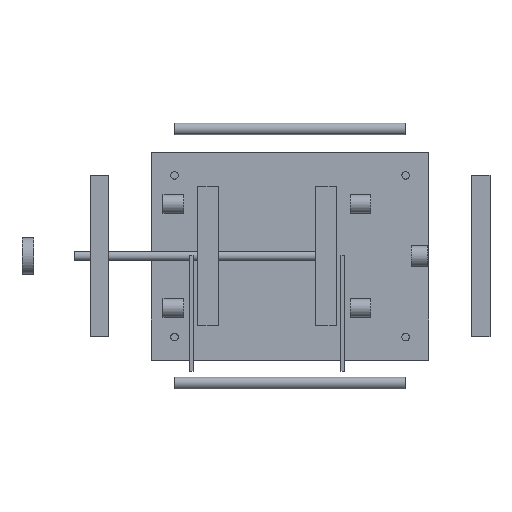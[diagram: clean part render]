
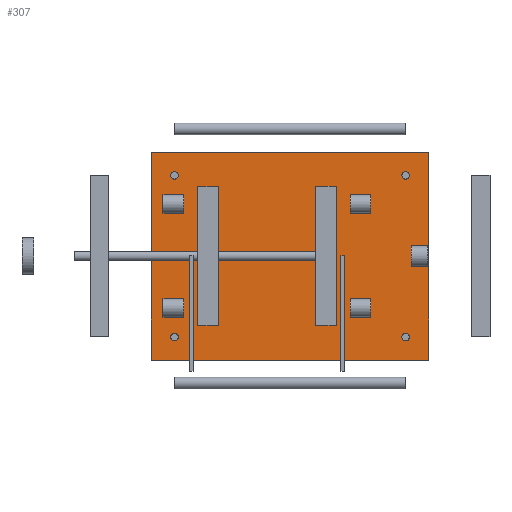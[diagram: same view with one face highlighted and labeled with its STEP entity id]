
A CAD part, top view. The second image highlights one B-rep face of the part: STEP entity #307.
In plain terms, the highlighted planar face has unit normal (0, 0, 1).
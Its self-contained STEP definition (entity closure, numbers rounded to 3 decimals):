
#118 = VERTEX_POINT('',#119);
#119 = CARTESIAN_POINT('',(0.,0.,10.));
#126 = PLANE('',#127);
#127 = AXIS2_PLACEMENT_3D('',#128,#129,#130);
#128 = CARTESIAN_POINT('',(0.,0.,0.));
#129 = DIRECTION('',(1.,0.,-0.));
#130 = DIRECTION('',(0.,0.,1.));
#138 = PLANE('',#139);
#139 = AXIS2_PLACEMENT_3D('',#140,#141,#142);
#140 = CARTESIAN_POINT('',(0.,0.,0.));
#141 = DIRECTION('',(-0.,1.,0.));
#142 = DIRECTION('',(0.,0.,1.));
#179 = VERTEX_POINT('',#180);
#180 = CARTESIAN_POINT('',(0.,180.,10.));
#194 = PLANE('',#195);
#195 = AXIS2_PLACEMENT_3D('',#196,#197,#198);
#196 = CARTESIAN_POINT('',(0.,180.,0.));
#197 = DIRECTION('',(-0.,1.,0.));
#198 = DIRECTION('',(0.,0.,1.));
#206 = EDGE_CURVE('',#118,#179,#207,.T.);
#207 = SURFACE_CURVE('',#208,(#212,#219),.PCURVE_S1.);
#208 = LINE('',#209,#210);
#209 = CARTESIAN_POINT('',(0.,0.,10.));
#210 = VECTOR('',#211,1.);
#211 = DIRECTION('',(-0.,1.,0.));
#212 = PCURVE('',#126,#213);
#213 = DEFINITIONAL_REPRESENTATION('',(#214),#218);
#214 = LINE('',#215,#216);
#215 = CARTESIAN_POINT('',(10.,0.));
#216 = VECTOR('',#217,1.);
#217 = DIRECTION('',(0.,-1.));
#218 = ( GEOMETRIC_REPRESENTATION_CONTEXT(2) 
PARAMETRIC_REPRESENTATION_CONTEXT() REPRESENTATION_CONTEXT('2D SPACE',''
  ) );
#219 = PCURVE('',#220,#225);
#220 = PLANE('',#221);
#221 = AXIS2_PLACEMENT_3D('',#222,#223,#224);
#222 = CARTESIAN_POINT('',(0.,0.,10.));
#223 = DIRECTION('',(0.,0.,1.));
#224 = DIRECTION('',(1.,0.,-0.));
#225 = DEFINITIONAL_REPRESENTATION('',(#226),#230);
#226 = LINE('',#227,#228);
#227 = CARTESIAN_POINT('',(0.,0.));
#228 = VECTOR('',#229,1.);
#229 = DIRECTION('',(0.,1.));
#230 = ( GEOMETRIC_REPRESENTATION_CONTEXT(2) 
PARAMETRIC_REPRESENTATION_CONTEXT() REPRESENTATION_CONTEXT('2D SPACE',''
  ) );
#259 = EDGE_CURVE('',#118,#260,#262,.T.);
#260 = VERTEX_POINT('',#261);
#261 = CARTESIAN_POINT('',(240.,0.,10.));
#262 = SURFACE_CURVE('',#263,(#267,#274),.PCURVE_S1.);
#263 = LINE('',#264,#265);
#264 = CARTESIAN_POINT('',(0.,0.,10.));
#265 = VECTOR('',#266,1.);
#266 = DIRECTION('',(1.,0.,-0.));
#267 = PCURVE('',#138,#268);
#268 = DEFINITIONAL_REPRESENTATION('',(#269),#273);
#269 = LINE('',#270,#271);
#270 = CARTESIAN_POINT('',(10.,0.));
#271 = VECTOR('',#272,1.);
#272 = DIRECTION('',(0.,1.));
#273 = ( GEOMETRIC_REPRESENTATION_CONTEXT(2) 
PARAMETRIC_REPRESENTATION_CONTEXT() REPRESENTATION_CONTEXT('2D SPACE',''
  ) );
#274 = PCURVE('',#220,#275);
#275 = DEFINITIONAL_REPRESENTATION('',(#276),#280);
#276 = LINE('',#277,#278);
#277 = CARTESIAN_POINT('',(0.,0.));
#278 = VECTOR('',#279,1.);
#279 = DIRECTION('',(1.,0.));
#280 = ( GEOMETRIC_REPRESENTATION_CONTEXT(2) 
PARAMETRIC_REPRESENTATION_CONTEXT() REPRESENTATION_CONTEXT('2D SPACE',''
  ) );
#296 = PLANE('',#297);
#297 = AXIS2_PLACEMENT_3D('',#298,#299,#300);
#298 = CARTESIAN_POINT('',(240.,0.,0.));
#299 = DIRECTION('',(1.,0.,-0.));
#300 = DIRECTION('',(0.,0.,1.));
#307 = ADVANCED_FACE('',(#308,#356,#387,#418,#449),#220,.T.);
#308 = FACE_BOUND('',#309,.T.);
#309 = EDGE_LOOP('',(#310,#311,#312,#335));
#310 = ORIENTED_EDGE('',*,*,#206,.F.);
#311 = ORIENTED_EDGE('',*,*,#259,.T.);
#312 = ORIENTED_EDGE('',*,*,#313,.T.);
#313 = EDGE_CURVE('',#260,#314,#316,.T.);
#314 = VERTEX_POINT('',#315);
#315 = CARTESIAN_POINT('',(240.,180.,10.));
#316 = SURFACE_CURVE('',#317,(#321,#328),.PCURVE_S1.);
#317 = LINE('',#318,#319);
#318 = CARTESIAN_POINT('',(240.,0.,10.));
#319 = VECTOR('',#320,1.);
#320 = DIRECTION('',(-0.,1.,0.));
#321 = PCURVE('',#220,#322);
#322 = DEFINITIONAL_REPRESENTATION('',(#323),#327);
#323 = LINE('',#324,#325);
#324 = CARTESIAN_POINT('',(240.,0.));
#325 = VECTOR('',#326,1.);
#326 = DIRECTION('',(0.,1.));
#327 = ( GEOMETRIC_REPRESENTATION_CONTEXT(2) 
PARAMETRIC_REPRESENTATION_CONTEXT() REPRESENTATION_CONTEXT('2D SPACE',''
  ) );
#328 = PCURVE('',#296,#329);
#329 = DEFINITIONAL_REPRESENTATION('',(#330),#334);
#330 = LINE('',#331,#332);
#331 = CARTESIAN_POINT('',(10.,0.));
#332 = VECTOR('',#333,1.);
#333 = DIRECTION('',(0.,-1.));
#334 = ( GEOMETRIC_REPRESENTATION_CONTEXT(2) 
PARAMETRIC_REPRESENTATION_CONTEXT() REPRESENTATION_CONTEXT('2D SPACE',''
  ) );
#335 = ORIENTED_EDGE('',*,*,#336,.F.);
#336 = EDGE_CURVE('',#179,#314,#337,.T.);
#337 = SURFACE_CURVE('',#338,(#342,#349),.PCURVE_S1.);
#338 = LINE('',#339,#340);
#339 = CARTESIAN_POINT('',(0.,180.,10.));
#340 = VECTOR('',#341,1.);
#341 = DIRECTION('',(1.,0.,-0.));
#342 = PCURVE('',#220,#343);
#343 = DEFINITIONAL_REPRESENTATION('',(#344),#348);
#344 = LINE('',#345,#346);
#345 = CARTESIAN_POINT('',(0.,180.));
#346 = VECTOR('',#347,1.);
#347 = DIRECTION('',(1.,0.));
#348 = ( GEOMETRIC_REPRESENTATION_CONTEXT(2) 
PARAMETRIC_REPRESENTATION_CONTEXT() REPRESENTATION_CONTEXT('2D SPACE',''
  ) );
#349 = PCURVE('',#194,#350);
#350 = DEFINITIONAL_REPRESENTATION('',(#351),#355);
#351 = LINE('',#352,#353);
#352 = CARTESIAN_POINT('',(10.,0.));
#353 = VECTOR('',#354,1.);
#354 = DIRECTION('',(0.,1.));
#355 = ( GEOMETRIC_REPRESENTATION_CONTEXT(2) 
PARAMETRIC_REPRESENTATION_CONTEXT() REPRESENTATION_CONTEXT('2D SPACE',''
  ) );
#356 = FACE_BOUND('',#357,.T.);
#357 = EDGE_LOOP('',(#358));
#358 = ORIENTED_EDGE('',*,*,#359,.F.);
#359 = EDGE_CURVE('',#360,#360,#362,.T.);
#360 = VERTEX_POINT('',#361);
#361 = CARTESIAN_POINT('',(23.3,20.,10.));
#362 = SURFACE_CURVE('',#363,(#368,#375),.PCURVE_S1.);
#363 = CIRCLE('',#364,3.3);
#364 = AXIS2_PLACEMENT_3D('',#365,#366,#367);
#365 = CARTESIAN_POINT('',(20.,20.,10.));
#366 = DIRECTION('',(0.,0.,1.));
#367 = DIRECTION('',(1.,0.,-0.));
#368 = PCURVE('',#220,#369);
#369 = DEFINITIONAL_REPRESENTATION('',(#370),#374);
#370 = CIRCLE('',#371,3.3);
#371 = AXIS2_PLACEMENT_2D('',#372,#373);
#372 = CARTESIAN_POINT('',(20.,20.));
#373 = DIRECTION('',(1.,0.));
#374 = ( GEOMETRIC_REPRESENTATION_CONTEXT(2) 
PARAMETRIC_REPRESENTATION_CONTEXT() REPRESENTATION_CONTEXT('2D SPACE',''
  ) );
#375 = PCURVE('',#376,#381);
#376 = CYLINDRICAL_SURFACE('',#377,3.3);
#377 = AXIS2_PLACEMENT_3D('',#378,#379,#380);
#378 = CARTESIAN_POINT('',(20.,20.,-1.));
#379 = DIRECTION('',(0.,0.,1.));
#380 = DIRECTION('',(1.,0.,-0.));
#381 = DEFINITIONAL_REPRESENTATION('',(#382),#386);
#382 = LINE('',#383,#384);
#383 = CARTESIAN_POINT('',(0.,11.));
#384 = VECTOR('',#385,1.);
#385 = DIRECTION('',(1.,0.));
#386 = ( GEOMETRIC_REPRESENTATION_CONTEXT(2) 
PARAMETRIC_REPRESENTATION_CONTEXT() REPRESENTATION_CONTEXT('2D SPACE',''
  ) );
#387 = FACE_BOUND('',#388,.T.);
#388 = EDGE_LOOP('',(#389));
#389 = ORIENTED_EDGE('',*,*,#390,.F.);
#390 = EDGE_CURVE('',#391,#391,#393,.T.);
#391 = VERTEX_POINT('',#392);
#392 = CARTESIAN_POINT('',(223.3,20.,10.));
#393 = SURFACE_CURVE('',#394,(#399,#406),.PCURVE_S1.);
#394 = CIRCLE('',#395,3.3);
#395 = AXIS2_PLACEMENT_3D('',#396,#397,#398);
#396 = CARTESIAN_POINT('',(220.,20.,10.));
#397 = DIRECTION('',(0.,0.,1.));
#398 = DIRECTION('',(1.,0.,-0.));
#399 = PCURVE('',#220,#400);
#400 = DEFINITIONAL_REPRESENTATION('',(#401),#405);
#401 = CIRCLE('',#402,3.3);
#402 = AXIS2_PLACEMENT_2D('',#403,#404);
#403 = CARTESIAN_POINT('',(220.,20.));
#404 = DIRECTION('',(1.,0.));
#405 = ( GEOMETRIC_REPRESENTATION_CONTEXT(2) 
PARAMETRIC_REPRESENTATION_CONTEXT() REPRESENTATION_CONTEXT('2D SPACE',''
  ) );
#406 = PCURVE('',#407,#412);
#407 = CYLINDRICAL_SURFACE('',#408,3.3);
#408 = AXIS2_PLACEMENT_3D('',#409,#410,#411);
#409 = CARTESIAN_POINT('',(220.,20.,-1.));
#410 = DIRECTION('',(0.,0.,1.));
#411 = DIRECTION('',(1.,0.,-0.));
#412 = DEFINITIONAL_REPRESENTATION('',(#413),#417);
#413 = LINE('',#414,#415);
#414 = CARTESIAN_POINT('',(0.,11.));
#415 = VECTOR('',#416,1.);
#416 = DIRECTION('',(1.,0.));
#417 = ( GEOMETRIC_REPRESENTATION_CONTEXT(2) 
PARAMETRIC_REPRESENTATION_CONTEXT() REPRESENTATION_CONTEXT('2D SPACE',''
  ) );
#418 = FACE_BOUND('',#419,.T.);
#419 = EDGE_LOOP('',(#420));
#420 = ORIENTED_EDGE('',*,*,#421,.F.);
#421 = EDGE_CURVE('',#422,#422,#424,.T.);
#422 = VERTEX_POINT('',#423);
#423 = CARTESIAN_POINT('',(23.3,160.,10.));
#424 = SURFACE_CURVE('',#425,(#430,#437),.PCURVE_S1.);
#425 = CIRCLE('',#426,3.3);
#426 = AXIS2_PLACEMENT_3D('',#427,#428,#429);
#427 = CARTESIAN_POINT('',(20.,160.,10.));
#428 = DIRECTION('',(0.,0.,1.));
#429 = DIRECTION('',(1.,0.,-0.));
#430 = PCURVE('',#220,#431);
#431 = DEFINITIONAL_REPRESENTATION('',(#432),#436);
#432 = CIRCLE('',#433,3.3);
#433 = AXIS2_PLACEMENT_2D('',#434,#435);
#434 = CARTESIAN_POINT('',(20.,160.));
#435 = DIRECTION('',(1.,0.));
#436 = ( GEOMETRIC_REPRESENTATION_CONTEXT(2) 
PARAMETRIC_REPRESENTATION_CONTEXT() REPRESENTATION_CONTEXT('2D SPACE',''
  ) );
#437 = PCURVE('',#438,#443);
#438 = CYLINDRICAL_SURFACE('',#439,3.3);
#439 = AXIS2_PLACEMENT_3D('',#440,#441,#442);
#440 = CARTESIAN_POINT('',(20.,160.,-1.));
#441 = DIRECTION('',(0.,0.,1.));
#442 = DIRECTION('',(1.,0.,-0.));
#443 = DEFINITIONAL_REPRESENTATION('',(#444),#448);
#444 = LINE('',#445,#446);
#445 = CARTESIAN_POINT('',(0.,11.));
#446 = VECTOR('',#447,1.);
#447 = DIRECTION('',(1.,0.));
#448 = ( GEOMETRIC_REPRESENTATION_CONTEXT(2) 
PARAMETRIC_REPRESENTATION_CONTEXT() REPRESENTATION_CONTEXT('2D SPACE',''
  ) );
#449 = FACE_BOUND('',#450,.T.);
#450 = EDGE_LOOP('',(#451));
#451 = ORIENTED_EDGE('',*,*,#452,.F.);
#452 = EDGE_CURVE('',#453,#453,#455,.T.);
#453 = VERTEX_POINT('',#454);
#454 = CARTESIAN_POINT('',(223.3,160.,10.));
#455 = SURFACE_CURVE('',#456,(#461,#468),.PCURVE_S1.);
#456 = CIRCLE('',#457,3.3);
#457 = AXIS2_PLACEMENT_3D('',#458,#459,#460);
#458 = CARTESIAN_POINT('',(220.,160.,10.));
#459 = DIRECTION('',(0.,0.,1.));
#460 = DIRECTION('',(1.,0.,-0.));
#461 = PCURVE('',#220,#462);
#462 = DEFINITIONAL_REPRESENTATION('',(#463),#467);
#463 = CIRCLE('',#464,3.3);
#464 = AXIS2_PLACEMENT_2D('',#465,#466);
#465 = CARTESIAN_POINT('',(220.,160.));
#466 = DIRECTION('',(1.,0.));
#467 = ( GEOMETRIC_REPRESENTATION_CONTEXT(2) 
PARAMETRIC_REPRESENTATION_CONTEXT() REPRESENTATION_CONTEXT('2D SPACE',''
  ) );
#468 = PCURVE('',#469,#474);
#469 = CYLINDRICAL_SURFACE('',#470,3.3);
#470 = AXIS2_PLACEMENT_3D('',#471,#472,#473);
#471 = CARTESIAN_POINT('',(220.,160.,-1.));
#472 = DIRECTION('',(0.,0.,1.));
#473 = DIRECTION('',(1.,0.,-0.));
#474 = DEFINITIONAL_REPRESENTATION('',(#475),#479);
#475 = LINE('',#476,#477);
#476 = CARTESIAN_POINT('',(0.,11.));
#477 = VECTOR('',#478,1.);
#478 = DIRECTION('',(1.,0.));
#479 = ( GEOMETRIC_REPRESENTATION_CONTEXT(2) 
PARAMETRIC_REPRESENTATION_CONTEXT() REPRESENTATION_CONTEXT('2D SPACE',''
  ) );
